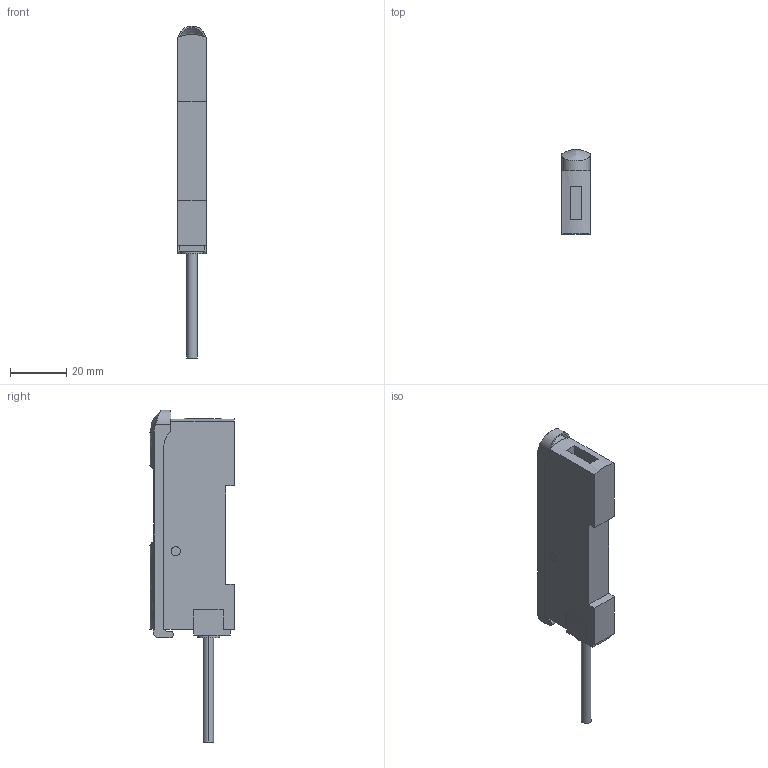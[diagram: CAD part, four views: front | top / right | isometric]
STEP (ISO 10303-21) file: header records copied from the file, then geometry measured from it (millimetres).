
FILE_DESCRIPTION (( 'STEP AP203' ), '1' );
FILE_NAME ('LS-401-C2.STEP', '2005-11-09T06:52:23', ( '' ), ( '' ), 'SwSTEP 2.0', 'SolidWorks 2004073', '' );
FILE_SCHEMA (( 'CONFIG_CONTROL_DESIGN' ));
Length unit declared in the file: millimetre
Products named in the file (1): LS-401-C2
Bounding box: 10 x 29.99 x 118 mm (x, y, z)
Volume: 19348 mm3; surface area: 9746.4 mm2
Topology: 2 solids, 2 shells, 166 faces, 419 edges, 278 vertices
Faces by surface type: plane 139, cylinder 22, bspline 5
Entity records: 5400 total; most frequent: CARTESIAN_POINT 1306, ORIENTED_EDGE 838, DIRECTION 783, EDGE_CURVE 419, VECTOR 359, LINE 359, VERTEX_POINT 278, AXIS2_PLACEMENT_3D 212
